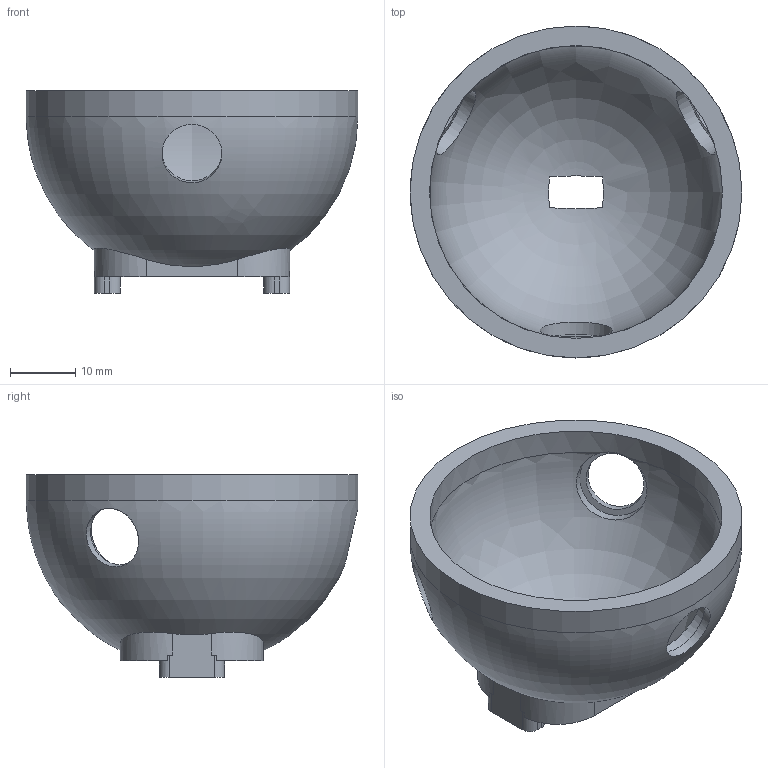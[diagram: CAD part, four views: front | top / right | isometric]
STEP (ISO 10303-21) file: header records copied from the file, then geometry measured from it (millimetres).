
FILE_DESCRIPTION(('Open CASCADE Model'),'2;1');
FILE_NAME('Open CASCADE Shape Model','2026-05-31T19:43:06',('Author'),( 'Open CASCADE'),'Open CASCADE STEP processor 7.6','Open CASCADE 7.6' ,'Unknown');
FILE_SCHEMA(('AP242_MANAGED_MODEL_BASED_3D_ENGINEERING_MIM_LF. {1 0 10303 442 1 1 4 }'));
Length unit declared in the file: millimetre
Products named in the file (1): Open CASCADE STEP translator 7.6 3
Bounding box: 51 x 51 x 31.1 mm (x, y, z)
Volume: 12354.6 mm3; surface area: 9310.3 mm2
Topology: 1 solids, 1 shells, 71 faces, 203 edges, 134 vertices
Faces by surface type: plane 35, cylinder 28, bspline 4, revolution 2, cone 2
Full cylindrical faces by diameter (mm): 2.05 x2, 9.2 x3, 11.2 x3, 45 x1, 51 x1
Entity records: 8429 total; most frequent: CARTESIAN_POINT 4491, DIRECTION 714, ORIENTED_EDGE 402, PCURVE 402, DEFINITIONAL_REPRESENTATION 402, LINE 388, VECTOR 388, EDGE_CURVE 201
